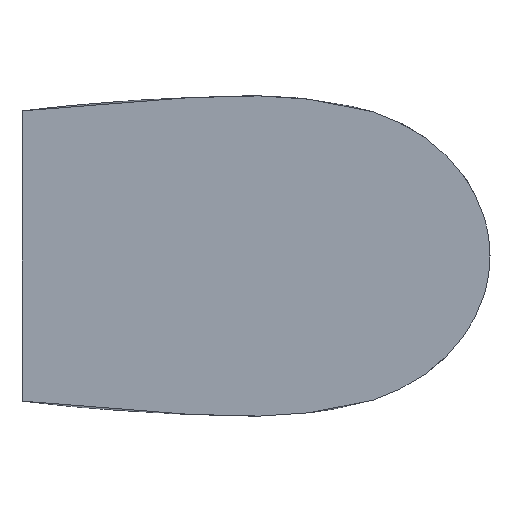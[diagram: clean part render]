
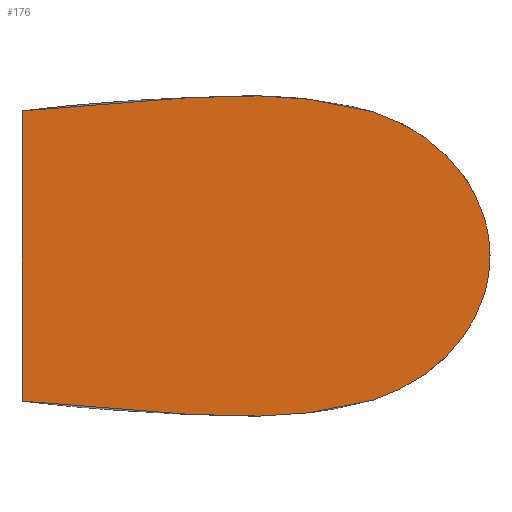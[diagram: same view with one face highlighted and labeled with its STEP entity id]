
A CAD part, left-side view. The second image highlights one B-rep face of the part: STEP entity #176.
In plain terms, the highlighted planar face has unit normal (-1, 0, 0).
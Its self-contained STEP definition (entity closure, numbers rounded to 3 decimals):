
#2=DIRECTION('',(0.,0.,-1.));
#3=VECTOR('',#2,2.205);
#4=CARTESIAN_POINT('',(-9.,-0.3,1.102));
#5=LINE('',#4,#3);
#10=CARTESIAN_POINT('',(-9.,-0.3,1.102));
#11=CARTESIAN_POINT('',(-9.,-0.449,1.121));
#12=CARTESIAN_POINT('',(-9.,-0.743,1.152));
#13=CARTESIAN_POINT('',(-9.,-1.109,1.18));
#14=CARTESIAN_POINT('',(-9.,-1.405,1.197));
#15=CARTESIAN_POINT('',(-9.,-1.593,1.204));
#16=CARTESIAN_POINT('',(-9.,-1.746,1.209));
#17=CARTESIAN_POINT('',(-9.,-1.843,1.21));
#18=CARTESIAN_POINT('',(-9.,-1.921,1.214));
#19=CARTESIAN_POINT('',(-9.,-2.,1.216));
#20=CARTESIAN_POINT('',(-9.,-2.151,1.217));
#21=CARTESIAN_POINT('',(-9.,-2.38,1.206));
#22=CARTESIAN_POINT('',(-9.,-2.62,1.173));
#23=CARTESIAN_POINT('',(-9.,-2.814,1.136));
#24=CARTESIAN_POINT('',(-9.,-3.007,1.087));
#25=CARTESIAN_POINT('',(-9.,-3.24,0.987));
#26=CARTESIAN_POINT('',(-9.,-3.491,0.81));
#27=CARTESIAN_POINT('',(-9.,-3.693,0.578));
#28=CARTESIAN_POINT('',(-9.,-3.825,0.3));
#29=CARTESIAN_POINT('',(-9.,-3.855,0.099));
#30=CARTESIAN_POINT('',(-9.,-3.855,0.));
#32=CARTESIAN_POINT('',(-9.,-0.3,-1.102));
#33=CARTESIAN_POINT('',(-9.,-0.449,-1.121));
#34=CARTESIAN_POINT('',(-9.,-0.743,-1.152));
#35=CARTESIAN_POINT('',(-9.,-1.109,-1.18));
#36=CARTESIAN_POINT('',(-9.,-1.405,-1.197));
#37=CARTESIAN_POINT('',(-9.,-1.593,-1.204));
#38=CARTESIAN_POINT('',(-9.,-1.746,-1.209));
#39=CARTESIAN_POINT('',(-9.,-1.843,-1.21));
#40=CARTESIAN_POINT('',(-9.,-1.921,-1.214));
#41=CARTESIAN_POINT('',(-9.,-2.,-1.216));
#42=CARTESIAN_POINT('',(-9.,-2.151,-1.217));
#43=CARTESIAN_POINT('',(-9.,-2.38,-1.206));
#44=CARTESIAN_POINT('',(-9.,-2.62,-1.173));
#45=CARTESIAN_POINT('',(-9.,-2.814,-1.136));
#46=CARTESIAN_POINT('',(-9.,-3.007,-1.087));
#47=CARTESIAN_POINT('',(-9.,-3.24,-0.987));
#48=CARTESIAN_POINT('',(-9.,-3.491,-0.81));
#49=CARTESIAN_POINT('',(-9.,-3.693,-0.578));
#50=CARTESIAN_POINT('',(-9.,-3.825,-0.3));
#51=CARTESIAN_POINT('',(-9.,-3.855,-0.099));
#52=CARTESIAN_POINT('',(-9.,-3.855,0.));
#141=CARTESIAN_POINT('',(-9.,-0.3,1.102));
#142=CARTESIAN_POINT('',(-9.,-0.3,-1.102));
#143=VERTEX_POINT('',#141);
#144=VERTEX_POINT('',#142);
#145=VERTEX_POINT('',#30);
#164=CARTESIAN_POINT('',(-9.,0.,0.));
#165=DIRECTION('',(1.,0.,0.));
#166=DIRECTION('',(0.,0.,-1.));
#167=AXIS2_PLACEMENT_3D('',#164,#165,#166);
#168=PLANE('',#167);
#169=ORIENTED_EDGE('',*,*,#151,.F.);
#171=ORIENTED_EDGE('',*,*,#170,.T.);
#173=ORIENTED_EDGE('',*,*,#172,.F.);
#174=EDGE_LOOP('',(#169,#171,#173));
#175=FACE_OUTER_BOUND('',#174,.F.);
#176=ADVANCED_FACE('',(#175),#168,.F.);
#31=B_SPLINE_CURVE_WITH_KNOTS('',3,(#10,#11,#12,#13,#14,#15,#16,#17,#18,#19,#20,
#21,#22,#23,#24,#25,#26,#27,#28,#29,#30),.UNSPECIFIED.,.F.,.F.,(4,1,1,1,1,1,1,1,
1,1,1,1,1,1,1,1,1,1,4),(0.,0.116,0.233,
0.291,0.349,0.378,0.408,
0.422,0.437,0.466,0.533,
0.599,0.633,0.666,0.733,
0.8,0.866,0.933,1.),.UNSPECIFIED.);
#53=B_SPLINE_CURVE_WITH_KNOTS('',3,(#32,#33,#34,#35,#36,#37,#38,#39,#40,#41,#42,
#43,#44,#45,#46,#47,#48,#49,#50,#51,#52),.UNSPECIFIED.,.F.,.F.,(4,1,1,1,1,1,1,1,
1,1,1,1,1,1,1,1,1,1,4),(0.,0.116,0.233,
0.291,0.349,0.378,0.408,
0.422,0.437,0.466,0.533,
0.599,0.633,0.666,0.733,
0.8,0.866,0.933,1.),.UNSPECIFIED.);
#151=EDGE_CURVE('',#143,#144,#5,.T.);
#170=EDGE_CURVE('',#143,#145,#31,.T.);
#172=EDGE_CURVE('',#144,#145,#53,.T.);
